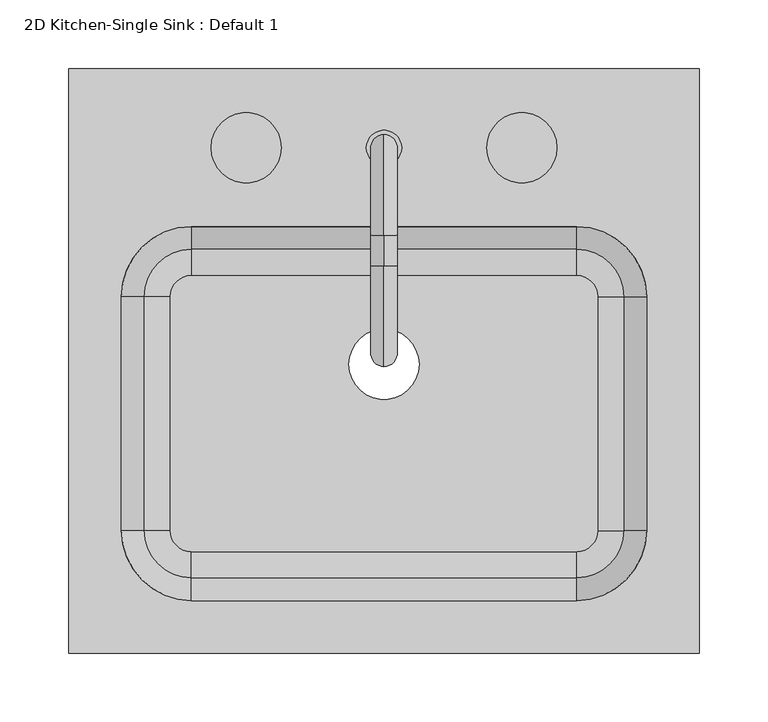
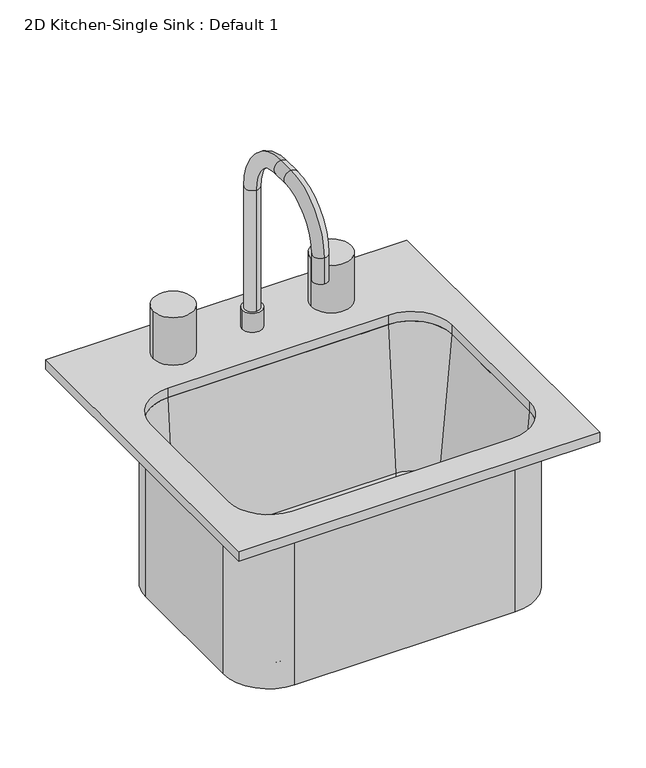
"""IFC4 building model written with IfcOpenShell, lengths in millimetres: flow terminal geometry, 2D Kitchen-Single Sink : Default 1."""

from ifc_helpers import new_model, si_unit, point, frame, frame_2d, origin, place, context, project, spatial, polyline, circle_curve, ellipse_curve, trimmed, segment, composite_curve, outline, extrude, source, transform, mapped, element, save
from ifc_brep_helpers import plane_surface, cylinder_surface, revolved_surface, advanced_brep


def flow_terminal_2d_kitchen_single_sink_default_1_0d85b589(model_context):
    return source(origin(), model_context, "Body", "SolidModel", [
        advanced_brep(
        [(212.5392406, 49.1108885, 546.1), (155.3892406, 106.2608885, 546.1), (155.3892406, 106.2608885, 762.0), (212.5392406, 49.1108885, 762.0), (212.5392406, -120.6200863, 546.1), (155.3892406, -177.7700863, 546.1), (-124.0107594, -177.7700863, 546.1), (-181.1607594, -120.6200863, 546.1), (-181.1607594, 49.1108885, 546.1), (-124.0107594, 106.2608885, 546.1), (-9.7107594, 0.0, 546.1), (41.0892406, 0.0, 546.1), (170.6776588, 49.1108885, 555.625), (155.3892406, 64.3993067, 555.625), (-124.0107594, 64.3993067, 555.625), (-139.2991776, 49.1108885, 555.625), (-139.2991776, -120.6200863, 555.625), (-124.0107594, -135.9085045, 555.625), (155.3892406, -135.9085045, 555.625), (170.6776588, -120.6200863, 555.625), (-9.7107594, 0.0, 555.625), (41.0892406, 0.0, 555.625), (189.6551678, 49.1108885, 573.0146831), (155.3892406, 83.3768157, 573.0146831), (206.1892406, 49.1108885, 762.0), (155.3892406, 99.9108885, 762.0), (212.5392406, -120.6200863, 762.0), (189.6551678, -120.6200863, 573.0146831), (206.1892406, -120.6200863, 762.0), (155.3892406, -177.7700863, 762.0), (155.3892406, -154.8860135, 573.0146831), (155.3892406, -171.4200863, 762.0), (-124.0107594, -177.7700863, 762.0), (-124.0107594, -154.8860135, 573.0146831), (-124.0107594, -171.4200863, 762.0), (-181.1607594, -120.6200863, 762.0), (-158.2766866, -120.6200863, 573.0146831), (-174.8107594, -120.6200863, 762.0), (-181.1607594, 49.1108885, 762.0), (-158.2766866, 49.1108885, 573.0146831), (-174.8107594, 49.1108885, 762.0), (-124.0107594, 106.2608885, 762.0), (-124.0107594, 83.3768157, 573.0146831), (-124.0107594, 99.9108885, 762.0)],
        [
            (0, 1, circle_curve(frame((155.3892406, 49.1108885, 546.1), z_axis=(0.0, 0.0, 1.0), x_axis=(0.0, 1.0, 0.0)), 57.15)),
            (1, 2),
            (2, 3, circle_curve(frame((155.3892406, 49.1108885, 762.0), z_axis=(0.0, 0.0, -1.0), x_axis=(0.0, 1.0, 0.0)), 57.15)),
            (3, 0),
            (0, 4),
            (4, 5, circle_curve(frame((155.3892406, -120.6200863, 546.1), z_axis=(0.0, 0.0, -1.0), x_axis=(1.0, 0.0, 0.0)), 57.15)),
            (5, 6),
            (6, 7, circle_curve(frame((-124.0107594, -120.6200863, 546.1), z_axis=(0.0, 0.0, -1.0), x_axis=(0.0, -1.0, 0.0)), 57.15)),
            (7, 8),
            (8, 9, circle_curve(frame((-124.0107594, 49.1108885, 546.1), z_axis=(0.0, 0.0, -1.0), x_axis=(-1.0, 0.0, 0.0)), 57.15)),
            (9, 1),
            (10, 11, circle_curve(frame((15.6892406, 0.0, 546.1), z_axis=(0.0, 0.0, 1.0), x_axis=(1.0, 0.0, 0.0)), 25.4)),
            (11, 10, circle_curve(frame((15.6892406, 0.0, 546.1), z_axis=(0.0, 0.0, 1.0), x_axis=(1.0, 0.0, 0.0)), 25.4)),
            (12, 13, circle_curve(frame((155.3892406, 49.1108885, 555.625), z_axis=(0.0, 0.0, 1.0), x_axis=(0.0, 1.0, 0.0)), 15.2884182)),
            (13, 14),
            (14, 15, circle_curve(frame((-124.0107594, 49.1108885, 555.625), z_axis=(0.0, 0.0, 1.0), x_axis=(-1.0, 0.0, 0.0)), 15.2884182)),
            (15, 16),
            (16, 17, circle_curve(frame((-124.0107594, -120.6200863, 555.625), z_axis=(0.0, 0.0, 1.0), x_axis=(0.0, -1.0, 0.0)), 15.2884182)),
            (17, 18),
            (18, 19, circle_curve(frame((155.3892406, -120.6200863, 555.625), z_axis=(0.0, 0.0, 1.0), x_axis=(1.0, 0.0, 0.0)), 15.2884182)),
            (19, 12),
            (20, 21, circle_curve(frame((15.6892406, 0.0, 555.625), z_axis=(0.0, 0.0, -1.0), x_axis=(1.0, 0.0, 0.0)), 25.4)),
            (21, 20, circle_curve(frame((15.6892406, 0.0, 555.625), z_axis=(0.0, 0.0, -1.0), x_axis=(1.0, 0.0, 0.0)), 25.4)),
            (12, 22, circle_curve(frame((170.6776588, 49.1108885, 574.675), z_axis=(0.0, -1.0, 0.0), x_axis=(1.0, 0.0, 0.0)), 19.05)),
            (22, 23, circle_curve(frame((155.3892406, 49.1108885, 573.0146831), z_axis=(0.0, 0.0, 1.0), x_axis=(0.0, 1.0, 0.0)), 34.2659272)),
            (23, 13, circle_curve(frame((155.3892406, 64.3993067, 574.675), z_axis=(-1.0, 0.0, 0.0), x_axis=(0.0, 1.0, 0.0)), 19.05)),
            (22, 24),
            (24, 25, circle_curve(frame((155.3892406, 49.1108885, 762.0), z_axis=(0.0, 0.0, 1.0), x_axis=(0.0, 1.0, 0.0)), 50.8)),
            (25, 23),
            (2, 25),
            (24, 3),
            (3, 26),
            (26, 4),
            (19, 27, circle_curve(frame((170.6776588, -120.6200863, 574.675), z_axis=(0.0, -1.0, 0.0), x_axis=(1.0, 0.0, 0.0)), 19.05)),
            (27, 22),
            (27, 28),
            (28, 24),
            (28, 26),
            (26, 29, circle_curve(frame((155.3892406, -120.6200863, 762.0), z_axis=(0.0, 0.0, -1.0), x_axis=(1.0, 0.0, 0.0)), 57.15)),
            (29, 5),
            (18, 30, circle_curve(frame((155.3892406, -135.9085045, 574.675), z_axis=(-1.0, 0.0, 0.0), x_axis=(0.0, -1.0, 0.0)), 19.05)),
            (30, 27, circle_curve(frame((155.3892406, -120.6200863, 573.0146831), z_axis=(0.0, 0.0, 1.0), x_axis=(1.0, 0.0, 0.0)), 34.2659272)),
            (30, 31),
            (31, 28, circle_curve(frame((155.3892406, -120.6200863, 762.0), z_axis=(0.0, 0.0, 1.0), x_axis=(1.0, 0.0, 0.0)), 50.8)),
            (31, 29),
            (29, 32),
            (32, 6),
            (17, 33, circle_curve(frame((-124.0107594, -135.9085045, 574.675), z_axis=(-1.0, 0.0, 0.0), x_axis=(0.0, -1.0, 0.0)), 19.05)),
            (33, 30),
            (33, 34),
            (34, 31),
            (34, 32),
            (32, 35, circle_curve(frame((-124.0107594, -120.6200863, 762.0), z_axis=(0.0, 0.0, -1.0), x_axis=(0.0, -1.0, 0.0)), 57.15)),
            (35, 7),
            (16, 36, circle_curve(frame((-139.2991776, -120.6200863, 574.675), z_axis=(0.0, 1.0, 0.0), x_axis=(-1.0, 0.0, 0.0)), 19.05)),
            (36, 33, circle_curve(frame((-124.0107594, -120.6200863, 573.0146831), z_axis=(0.0, 0.0, 1.0), x_axis=(0.0, -1.0, 0.0)), 34.2659272)),
            (36, 37),
            (37, 34, circle_curve(frame((-124.0107594, -120.6200863, 762.0), z_axis=(0.0, 0.0, 1.0), x_axis=(0.0, -1.0, 0.0)), 50.8)),
            (37, 35),
            (35, 38),
            (38, 8),
            (15, 39, circle_curve(frame((-139.2991776, 49.1108885, 574.675), z_axis=(0.0, 1.0, 0.0), x_axis=(-1.0, 0.0, 0.0)), 19.05)),
            (39, 36),
            (39, 40),
            (40, 37),
            (40, 38),
            (38, 41, circle_curve(frame((-124.0107594, 49.1108885, 762.0), z_axis=(0.0, 0.0, -1.0), x_axis=(-1.0, 0.0, 0.0)), 57.15)),
            (41, 9),
            (14, 42, circle_curve(frame((-124.0107594, 64.3993067, 574.675), z_axis=(1.0, 0.0, 0.0), x_axis=(0.0, 1.0, 0.0)), 19.05)),
            (42, 39, circle_curve(frame((-124.0107594, 49.1108885, 573.0146831), z_axis=(0.0, 0.0, 1.0), x_axis=(-1.0, 0.0, 0.0)), 34.2659272)),
            (42, 43),
            (43, 40, circle_curve(frame((-124.0107594, 49.1108885, 762.0), z_axis=(0.0, 0.0, 1.0), x_axis=(-1.0, 0.0, 0.0)), 50.8)),
            (43, 41),
            (41, 2),
            (23, 42),
            (25, 43),
            (20, 10),
            (11, 21),
        ],
        [
            cylinder_surface(frame((155.3892406, 49.1108885, 0.0), z_axis=(0.0, 0.0, -1.0), x_axis=(0.0, 1.0, 0.0)), 57.15),
            plane_surface(frame((155.3892406, 49.1108885, 546.1), z_axis=(0.0, 0.0, -1.0), x_axis=(0.0, 1.0, 0.0))),
            plane_surface(frame((155.3892406, 49.1108885, 555.625), z_axis=(0.0, 0.0, 1.0), x_axis=(0.0, 1.0, 0.0))),
            revolved_surface(trimmed(ellipse_curve(frame((155.3892406, 64.3993067, 574.675), z_axis=(1.0, 0.0, 0.0), x_axis=(0.0, 1.0, 0.0)), 19.05, 19.05), [point((155.3892406, 64.3993067, 555.625))], [point((155.3892406, 83.3768157, 573.0146831))], True, "CARTESIAN"), (155.3892406, 49.1108885, 0.0), (0.0, 0.0, -1.0)),
            revolved_surface(polyline([(155.3892406, 83.3768157, 573.0146831), (155.3892406, 99.9108885, 762.0)]), (155.3892406, 49.1108885, 0.0), (0.0, 0.0, -1.0)),
            plane_surface(frame((155.3892406, 49.1108885, 762.0), z_axis=(0.0, 0.0, 1.0), x_axis=(0.0, 1.0, 0.0))),
            plane_surface(frame((212.5392406, 49.1108885, 762.0), z_axis=(1.0, 0.0, 0.0), x_axis=(0.0, -1.0, 0.0))),
            revolved_surface(polyline([(189.7276588, -120.62008630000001, 574.675), (189.7276588, 49.1108885, 574.675)]), (170.6776588, 49.1108885, 574.675), (0.0, -1.0, 0.0)),
            plane_surface(frame((189.6551678, 49.1108885, 573.0146831), z_axis=(-0.9961946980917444, 0.0, 0.08715574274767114), x_axis=(0.0, -1.0, 0.0))),
            plane_surface(frame((206.1892406, 49.1108885, 762.0), z_axis=(0.0, 0.0, 1.0), x_axis=(0.0, -1.0, 0.0))),
            cylinder_surface(frame((155.3892406, -120.6200863, 0.0), z_axis=(0.0, 0.0, -1.0), x_axis=(1.0, 0.0, 0.0)), 57.15),
            revolved_surface(trimmed(ellipse_curve(frame((170.6776588, -120.6200863, 574.675), z_axis=(0.0, -1.0, 0.0), x_axis=(1.0, 0.0, 0.0)), 19.05, 19.05), [point((170.6776588, -120.6200863, 555.625))], [point((189.6551678, -120.6200863, 573.0146831))], True, "CARTESIAN"), (155.3892406, -120.6200863, 0.0), (0.0, 0.0, -1.0)),
            revolved_surface(polyline([(189.6551678, -120.6200863, 573.0146831), (206.1892406, -120.6200863, 762.0)]), (155.3892406, -120.6200863, 0.0), (0.0, 0.0, -1.0)),
            plane_surface(frame((155.3892406, -120.6200863, 762.0), z_axis=(0.0, 0.0, 1.0), x_axis=(1.0, 0.0, 0.0))),
            plane_surface(frame((155.3892406, -177.7700863, 762.0), z_axis=(0.0, -1.0, 0.0), x_axis=(-1.0, 0.0, 0.0))),
            revolved_surface(polyline([(-124.01075939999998, -154.9585045, 574.675), (155.3892406, -154.9585045, 574.675)]), (155.3892406, -135.9085045, 574.675), (-1.0, 0.0, 0.0)),
            plane_surface(frame((155.3892406, -154.8860135, 573.0146831), z_axis=(0.0, 0.9961946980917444, 0.08715574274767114), x_axis=(-1.0, 0.0, 0.0))),
            plane_surface(frame((155.3892406, -171.4200863, 762.0), z_axis=(0.0, 0.0, 1.0), x_axis=(-1.0, 0.0, 0.0))),
            cylinder_surface(frame((-124.0107594, -120.6200863, 0.0), z_axis=(0.0, 0.0, -1.0), x_axis=(0.0, -1.0, 0.0)), 57.15),
            revolved_surface(trimmed(ellipse_curve(frame((-124.0107594, -135.9085045, 574.675), z_axis=(-1.0, 0.0, 0.0), x_axis=(0.0, -1.0, 0.0)), 19.05, 19.05), [point((-124.0107594, -135.9085045, 555.625))], [point((-124.0107594, -154.8860135, 573.0146831))], True, "CARTESIAN"), (-124.0107594, -120.6200863, 0.0), (0.0, 0.0, -1.0)),
            revolved_surface(polyline([(-124.0107594, -154.8860135, 573.0146831), (-124.0107594, -171.4200863, 762.0)]), (-124.0107594, -120.6200863, 0.0), (0.0, 0.0, -1.0)),
            plane_surface(frame((-124.0107594, -120.6200863, 762.0), z_axis=(0.0, 0.0, 1.0), x_axis=(0.0, -1.0, 0.0))),
            plane_surface(frame((-181.1607594, -120.6200863, 762.0), z_axis=(-1.0, 0.0, 0.0), x_axis=(0.0, 1.0, 0.0))),
            revolved_surface(polyline([(-158.34917760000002, 49.110888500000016, 574.675), (-158.34917760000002, -120.6200863, 574.675)]), (-139.2991776, -120.6200863, 574.675), (0.0, 1.0, 0.0)),
            plane_surface(frame((-158.2766866, -120.6200863, 573.0146831), z_axis=(0.9961946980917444, 0.0, 0.08715574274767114), x_axis=(0.0, 1.0, 0.0))),
            plane_surface(frame((-174.8107594, -120.6200863, 762.0), z_axis=(0.0, 0.0, 1.0), x_axis=(0.0, 1.0, 0.0))),
            cylinder_surface(frame((-124.0107594, 49.1108885, 0.0), z_axis=(0.0, 0.0, -1.0), x_axis=(-1.0, 0.0, 0.0)), 57.15),
            revolved_surface(trimmed(ellipse_curve(frame((-139.2991776, 49.1108885, 574.675), z_axis=(0.0, 1.0, 0.0), x_axis=(-1.0, 0.0, 0.0)), 19.05, 19.05), [point((-139.2991776, 49.1108885, 555.625))], [point((-158.2766866, 49.1108885, 573.0146831))], True, "CARTESIAN"), (-124.0107594, 49.1108885, 0.0), (0.0, 0.0, -1.0)),
            revolved_surface(polyline([(-158.2766866, 49.1108885, 573.0146831), (-174.8107594, 49.1108885, 762.0)]), (-124.0107594, 49.1108885, 0.0), (0.0, 0.0, -1.0)),
            plane_surface(frame((-124.0107594, 49.1108885, 762.0), z_axis=(0.0, 0.0, 1.0), x_axis=(-1.0, 0.0, 0.0))),
            plane_surface(frame((-124.0107594, 106.2608885, 762.0), z_axis=(0.0, 1.0, 0.0), x_axis=(1.0, 0.0, 0.0))),
            revolved_surface(polyline([(155.3892406, 83.4493067, 574.675), (-124.0107594, 83.4493067, 574.675)]), (-124.0107594, 64.3993067, 574.675), (1.0, 0.0, 0.0)),
            plane_surface(frame((-124.0107594, 83.3768157, 573.0146831), z_axis=(0.0, -0.9961946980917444, 0.08715574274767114), x_axis=(1.0, 0.0, 0.0))),
            plane_surface(frame((-124.0107594, 99.9108885, 762.0), z_axis=(0.0, 0.0, 1.0), x_axis=(1.0, 0.0, 0.0))),
            revolved_surface(polyline([(41.0892406, 0.0, 546.1), (41.0892406, 0.0, 555.625)]), (15.6892406, 0.0, 0.0), (0.0, 0.0, -1.0)),
        ],
        [
            (0, [[1, 2, 3, 4]]),
            (1, [[-1, 5, 6, 7, 8, 9, 10, 11], [12, 13]]),
            (2, [[14, 15, 16, 17, 18, 19, 20, 21], [22, 23]]),
            (3, [[-14, 24, 25, 26]]),
            (4, [[-25, 27, 28, 29]]),
            (5, [[-3, 30, -28, 31]]),
            (6, [[-4, 32, 33, -5]]),
            (7, [[-24, -21, 34, 35]]),
            (8, [[-27, -35, 36, 37]]),
            (9, [[-31, -37, 38, -32]]),
            (10, [[-33, 39, 40, -6]]),
            (11, [[-34, -20, 41, 42]]),
            (12, [[-36, -42, 43, 44]]),
            (13, [[-38, -44, 45, -39]]),
            (14, [[-40, 46, 47, -7]]),
            (15, [[-41, -19, 48, 49]]),
            (16, [[-43, -49, 50, 51]]),
            (17, [[-45, -51, 52, -46]]),
            (18, [[-47, 53, 54, -8]]),
            (19, [[-48, -18, 55, 56]]),
            (20, [[-50, -56, 57, 58]]),
            (21, [[-52, -58, 59, -53]]),
            (22, [[-54, 60, 61, -9]]),
            (23, [[-55, -17, 62, 63]]),
            (24, [[-57, -63, 64, 65]]),
            (25, [[-59, -65, 66, -60]]),
            (26, [[-61, 67, 68, -10]]),
            (27, [[-62, -16, 69, 70]]),
            (28, [[-64, -70, 71, 72]]),
            (29, [[-66, -72, 73, -67]]),
            (30, [[-2, -11, -68, 74]]),
            (31, [[-26, 75, -69, -15]]),
            (32, [[-29, 76, -71, -75]]),
            (33, [[-30, -74, -73, -76]]),
            (34, [[-22, 77, -13, 78]]),
            (34, [[-23, -78, -12, -77]]),
        ],
    ),
        advanced_brep(
        [(2.9892406, 157.0608885, 800.1), (28.3892406, 157.0608885, 800.1), (15.6892406, 166.5858885, 800.1), (15.6892406, 147.5358885, 800.1), (2.9892406, 157.0608885, 774.7), (28.3892406, 157.0608885, 774.7), (15.6892406, 166.5858885, 962.025), (15.6892406, 147.5358885, 962.025), (15.6892406, 93.5608885, 1035.05), (15.6892406, 93.5608885, 1016.0), (15.6892406, 71.3358885, 1035.05), (15.6892406, 71.3358885, 1016.0), (15.6892406, -1.6891115, 962.025), (15.6892406, 17.3608885, 962.025), (15.6892406, -1.6891115, 927.1), (15.6892406, 17.3608885, 927.1)],
        [
            (0, 1, circle_curve(frame((15.6892406, 157.0608885, 800.1), z_axis=(0.0, 0.0, 1.0), x_axis=(1.0, 0.0, 0.0)), 12.7)),
            (1, 0, circle_curve(frame((15.6892406, 157.0608885, 800.1), z_axis=(0.0, 0.0, 1.0), x_axis=(1.0, 0.0, 0.0)), 12.7)),
            (2, 3, circle_curve(frame((15.6892406, 157.0608885, 800.1), z_axis=(0.0, 0.0, -1.0), x_axis=(0.0, -1.0, 0.0)), 9.525)),
            (3, 2, circle_curve(frame((15.6892406, 157.0608885, 800.1), z_axis=(0.0, 0.0, -1.0), x_axis=(0.0, -1.0, 0.0)), 9.525)),
            (4, 5, circle_curve(frame((15.6892406, 157.0608885, 774.7), z_axis=(0.0, 0.0, -1.0), x_axis=(1.0, 0.0, 0.0)), 12.7)),
            (5, 4, circle_curve(frame((15.6892406, 157.0608885, 774.7), z_axis=(0.0, 0.0, -1.0), x_axis=(1.0, 0.0, 0.0)), 12.7)),
            (0, 4),
            (5, 1),
            (6, 7, circle_curve(frame((15.6892406, 157.0608885, 962.025), z_axis=(0.0, 0.0, -1.0), x_axis=(0.0, -1.0, 0.0)), 9.525)),
            (7, 3),
            (2, 6),
            (7, 6, circle_curve(frame((15.6892406, 157.0608885, 962.025), z_axis=(0.0, 0.0, -1.0), x_axis=(0.0, -1.0, 0.0)), 9.525)),
            (6, 8, circle_curve(frame((15.6892406, 93.5608885, 962.025), z_axis=(1.0, 0.0, 0.0), x_axis=(0.0, 1.0, 0.0)), 73.025)),
            (8, 9, circle_curve(frame((15.6892406, 93.5608885, 1025.525), z_axis=(0.0, 1.0, 0.0), x_axis=(0.0, 0.0, -1.0)), 9.525)),
            (9, 7, circle_curve(frame((15.6892406, 93.5608885, 962.025), z_axis=(-1.0, 0.0, 0.0), x_axis=(0.0, 1.0, 0.0)), 53.975)),
            (9, 8, circle_curve(frame((15.6892406, 93.5608885, 1025.525), z_axis=(0.0, 1.0, 0.0), x_axis=(0.0, 0.0, -1.0)), 9.525)),
            (8, 10),
            (10, 11, circle_curve(frame((15.6892406, 71.3358885, 1025.525), z_axis=(0.0, 1.0, 0.0), x_axis=(0.0, 0.0, -1.0)), 9.525)),
            (11, 9),
            (11, 10, circle_curve(frame((15.6892406, 71.3358885, 1025.525), z_axis=(0.0, 1.0, 0.0), x_axis=(0.0, 0.0, -1.0)), 9.525)),
            (10, 12, circle_curve(frame((15.6892406, 71.3358885, 962.025), z_axis=(1.0, 0.0, 0.0), x_axis=(0.0, 0.0, 1.0)), 73.025)),
            (12, 13, circle_curve(frame((15.6892406, 7.8358885, 962.025), z_axis=(0.0, 0.0, 1.0), x_axis=(0.0, 1.0, 0.0)), 9.525)),
            (13, 11, circle_curve(frame((15.6892406, 71.3358885, 962.025), z_axis=(-1.0, 0.0, 0.0), x_axis=(0.0, 0.0, 1.0)), 53.975)),
            (13, 12, circle_curve(frame((15.6892406, 7.8358885, 962.025), z_axis=(0.0, 0.0, 1.0), x_axis=(0.0, 1.0, 0.0)), 9.525)),
            (14, 15, circle_curve(frame((15.6892406, 7.8358885, 927.1), z_axis=(0.0, 0.0, -1.0), x_axis=(0.0, 1.0, 0.0)), 9.525)),
            (15, 14, circle_curve(frame((15.6892406, 7.8358885, 927.1), z_axis=(0.0, 0.0, -1.0), x_axis=(0.0, 1.0, 0.0)), 9.525)),
            (12, 14),
            (15, 13),
        ],
        [
            plane_surface(frame((28.3892406, 157.0608885, 800.1), z_axis=(0.0, 0.0, 1.0), x_axis=(0.0, 1.0, 0.0))),
            plane_surface(frame((28.3892406, 157.0608885, 774.7), z_axis=(0.0, 0.0, -1.0), x_axis=(0.0, -1.0, 0.0))),
            cylinder_surface(frame((15.6892406, 157.0608885, 774.7), z_axis=(0.0, 0.0, 1.0), x_axis=(1.0, 0.0, 0.0)), 12.7),
            cylinder_surface(frame((15.6892406, 157.0608885, 774.7), z_axis=(0.0, 0.0, -1.0), x_axis=(0.0, -1.0, 0.0)), 9.525),
            revolved_surface(trimmed(ellipse_curve(frame((15.6892406, 157.0608885, 962.025), z_axis=(0.0, 0.0, -1.0), x_axis=(0.0, -1.0, 0.0)), 9.525, 9.525), [point((15.6892406, 166.5858885, 962.025))], [point((15.6892406, 147.5358885, 962.025))], True, "CARTESIAN"), (15.6892406, 93.5608885, 962.025), (1.0, 0.0, 0.0)),
            revolved_surface(trimmed(ellipse_curve(frame((15.6892406, 157.0608885, 962.025), z_axis=(0.0, 0.0, -1.0), x_axis=(0.0, -1.0, 0.0)), 9.525, 9.525), [point((15.6892406, 147.5358885, 962.025))], [point((15.6892406, 166.5858885, 962.025))], True, "CARTESIAN"), (15.6892406, 93.5608885, 962.025), (1.0, 0.0, 0.0)),
            cylinder_surface(frame((15.6892406, 93.5608885, 1025.525), z_axis=(0.0, 1.0, 0.0), x_axis=(0.0, 0.0, -1.0)), 9.525),
            revolved_surface(trimmed(ellipse_curve(frame((15.6892406, 71.3358885, 1025.525), z_axis=(0.0, 1.0, 0.0), x_axis=(0.0, 0.0, -1.0)), 9.525, 9.525), [point((15.6892406, 71.3358885, 1035.05))], [point((15.6892406, 71.3358885, 1016.0))], True, "CARTESIAN"), (15.6892406, 71.3358885, 962.025), (1.0, 0.0, 0.0)),
            revolved_surface(trimmed(ellipse_curve(frame((15.6892406, 71.3358885, 1025.525), z_axis=(0.0, 1.0, 0.0), x_axis=(0.0, 0.0, -1.0)), 9.525, 9.525), [point((15.6892406, 71.3358885, 1016.0))], [point((15.6892406, 71.3358885, 1035.05))], True, "CARTESIAN"), (15.6892406, 71.3358885, 962.025), (1.0, 0.0, 0.0)),
            plane_surface(frame((15.6892406, -1.6891115, 927.1), z_axis=(0.0, 0.0, -1.0), x_axis=(-1.0, 0.0, 0.0))),
            cylinder_surface(frame((15.6892406, 7.8358885, 962.025), z_axis=(0.0, 0.0, 1.0), x_axis=(0.0, 1.0, 0.0)), 9.525),
        ],
        [
            (0, [[1, 2], [3, 4]]),
            (1, [[5, 6]]),
            (2, [[-1, 7, -6, 8]]),
            (2, [[-2, -8, -5, -7]]),
            (3, [[9, 10, -3, 11]]),
            (3, [[12, -11, -4, -10]]),
            (4, [[-9, 13, 14, 15]]),
            (5, [[-12, -15, 16, -13]]),
            (6, [[-14, 17, 18, 19]]),
            (6, [[-16, -19, 20, -17]]),
            (7, [[-18, 21, 22, 23]]),
            (8, [[-20, -23, 24, -21]]),
            (9, [[25, 26]]),
            (10, [[-22, 27, -26, 28]]),
            (10, [[-24, -28, -25, -27]]),
        ],
    ),
        extrude(outline(composite_curve([segment(trimmed(circle_curve(frame_2d((-84.3107594, 157.0608885)), 25.4), [point((-109.7107594, 157.0608885))], [point((-58.9107594, 157.0608885))], False, "CARTESIAN"), True, "CONTINUOUS"), segment(trimmed(circle_curve(frame_2d((-84.3107594, 157.0608885)), 25.4), [point((-58.9107594, 157.0608885))], [point((-109.7107594, 157.0608885))], False, "CARTESIAN"), True, "CONTINUOUS")], self_intersect=False)), frame((0.0, 0.0, 774.7), z_axis=(0.0, 0.0, 1.0), x_axis=(1.0, 0.0, 0.0)), (0.0, 0.0, 1.0), 63.5),
        extrude(outline(composite_curve([segment(trimmed(circle_curve(frame_2d((115.6892406, 157.0608885)), 25.4), [point((90.2892406, 157.0608885))], [point((141.0892406, 157.0608885))], False, "CARTESIAN"), True, "CONTINUOUS"), segment(trimmed(circle_curve(frame_2d((115.6892406, 157.0608885)), 25.4), [point((141.0892406, 157.0608885))], [point((90.2892406, 157.0608885))], False, "CARTESIAN"), True, "CONTINUOUS")], self_intersect=False)), frame((0.0, 0.0, 774.7), z_axis=(0.0, 0.0, 1.0), x_axis=(1.0, 0.0, 0.0)), (0.0, 0.0, 1.0), 63.5),
        extrude(outline(polyline([(244.2892406, 214.2108885), (244.2892406, -209.5200863), (-212.9107594, -209.5200863), (-212.9107594, 214.2108885), (244.2892406, 214.2108885)]), holes=[composite_curve([segment(polyline([(155.3892406, 99.9108885), (-124.0107594, 99.9108885)]), True, "CONTINUOUS"), segment(trimmed(circle_curve(frame_2d((-124.0107594, 49.1108885)), 50.8), [point((-124.0107594, 99.9108885))], [point((-174.8107594, 49.1108885))], True, "CARTESIAN"), True, "CONTINUOUS"), segment(polyline([(-174.8107594, 49.1108885), (-174.8107594, -120.6200863)]), True, "CONTINUOUS"), segment(trimmed(circle_curve(frame_2d((-124.0107594, -120.6200863)), 50.8), [point((-174.8107594, -120.6200863))], [point((-124.0107594, -171.4200863))], True, "CARTESIAN"), True, "CONTINUOUS"), segment(polyline([(-124.0107594, -171.4200863), (155.3892406, -171.4200863)]), True, "CONTINUOUS"), segment(trimmed(circle_curve(frame_2d((155.3892406, -120.6200863)), 50.8), [point((155.3892406, -171.4200863))], [point((206.1892406, -120.6200863))], True, "CARTESIAN"), True, "CONTINUOUS"), segment(polyline([(206.1892406, -120.6200863), (206.1892406, 49.1108885)]), True, "CONTINUOUS"), segment(trimmed(circle_curve(frame_2d((155.3892406, 49.1108885)), 50.8), [point((206.1892406, 49.1108885))], [point((155.3892406, 99.9108885))], True, "CARTESIAN"), True, "CONTINUOUS")], self_intersect=False)]), frame((0.0, 0.0, 762.0), z_axis=(0.0, 0.0, 1.0), x_axis=(1.0, 0.0, 0.0)), (0.0, 0.0, 1.0), 12.7),
    ])


if __name__ == "__main__":
    model = new_model("IFC4")
    model_context = context("Model", 3, world=origin())
    ifc_project = project(units=[si_unit("LENGTHUNIT", "METRE", prefix="MILLI")], contexts=[model_context])
    site = spatial("IfcSite", under=ifc_project)
    building = spatial("IfcBuilding", under=site)
    placement = place(None, origin())
    flow_terminal_2d_kitchen_single_sink_default_1_shape = flow_terminal_2d_kitchen_single_sink_default_1_0d85b589(model_context)
    element("IfcFlowTerminal", 1, ObjectType="2D Kitchen-Single Sink : Default 1", at=placement, inside=building, context=model_context, shape_type="MappedRepresentation", body=[
        mapped(flow_terminal_2d_kitchen_single_sink_default_1_shape, transform((0.0, 0.0, 0.0), x_axis=(1.0, 0.0, 0.0), y_axis=(0.0, 1.0, 0.0), z_axis=(0.0, 0.0, 1.0))),
    ])
    save(model, "model.ifc")
